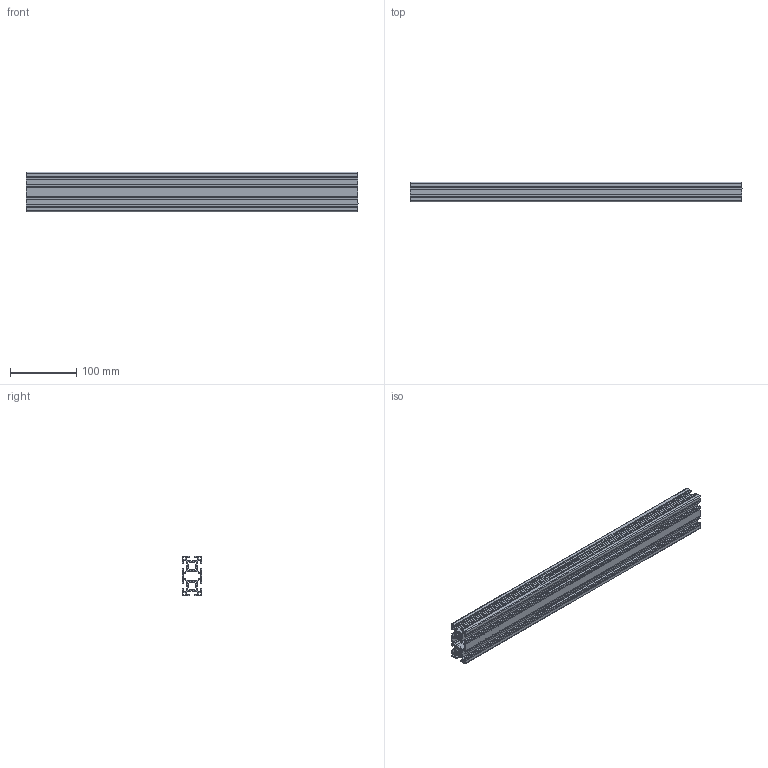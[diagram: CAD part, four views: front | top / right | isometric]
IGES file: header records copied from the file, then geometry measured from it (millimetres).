
Start section: SolidWorks IGES file using analytic representation for surfaces
Global section: file name: Z:\ENGENHARIA_DE_PRODUTO\1 - SETORES\1.1 - PD&I\DESENVOLVIMENTOS\Biblioteca Servidor PDI\Componentes para perfil\Perfis\PF30-02\4. IGS\PF30-02.IGS; native system: SolidWorks 2019; preprocessor: SolidWorks 2019; author: fernando.camargo; date: 240710.164836; units: millimetre
Bounding box: 500 x 30 x 60 mm (x, y, z)
Surface area: 306159.5 mm2 (no closed solid volume)
Topology: 0 solids, 0 shells, 374 faces, 2880 edges, 2880 vertices
Faces by surface type: bspline 206, revolution 168
